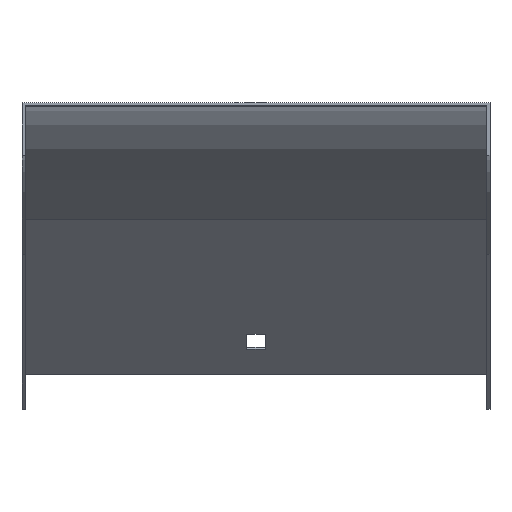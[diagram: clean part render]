
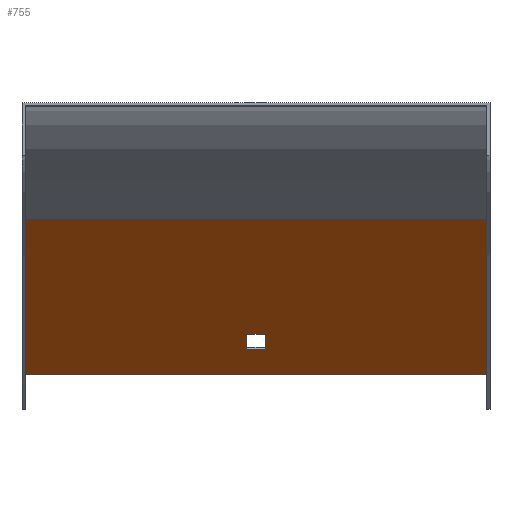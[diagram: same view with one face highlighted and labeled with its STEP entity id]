
A CAD part, top view. The second image highlights one B-rep face of the part: STEP entity #755.
In plain terms, the highlighted planar face has unit normal (0, -0.707, 0.707).
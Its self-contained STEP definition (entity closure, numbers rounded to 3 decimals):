
#1 = VECTOR ( 'NONE', #775, 1000. ) ;
#6 = VECTOR ( 'NONE', #308, 1000. ) ;
#27 = DIRECTION ( 'NONE',  ( -1., 0., 0. ) ) ;
#29 = VECTOR ( 'NONE', #244, 1000. ) ;
#42 = LINE ( 'NONE', #234, #431 ) ;
#64 = DIRECTION ( 'NONE',  ( 0., 0.707, 0.707 ) ) ;
#76 = LINE ( 'NONE', #365, #6 ) ;
#91 = LINE ( 'NONE', #518, #1 ) ;
#96 = EDGE_CURVE ( 'NONE', #166, #438, #91, .T. ) ;
#104 = LINE ( 'NONE', #718, #774 ) ;
#107 = CARTESIAN_POINT ( 'NONE',  ( 3., -37.612, -159.388 ) ) ;
#111 = CARTESIAN_POINT ( 'NONE',  ( -75., -37.612, -159.388 ) ) ;
#115 = CARTESIAN_POINT ( 'NONE',  ( 76., -74.735, -196.511 ) ) ;
#116 = LINE ( 'NONE', #107, #143 ) ;
#129 = CARTESIAN_POINT ( 'NONE',  ( 76., -87.816, -209.593 ) ) ;
#137 = VERTEX_POINT ( 'NONE', #772 ) ;
#143 = VECTOR ( 'NONE', #255, 1000. ) ;
#163 = ORIENTED_EDGE ( 'NONE', *, *, #207, .T. ) ;
#166 = VERTEX_POINT ( 'NONE', #300 ) ;
#177 = ORIENTED_EDGE ( 'NONE', *, *, #180, .T. ) ;
#180 = EDGE_CURVE ( 'NONE', #196, #842, #42, .T. ) ;
#196 = VERTEX_POINT ( 'NONE', #252 ) ;
#207 = EDGE_CURVE ( 'NONE', #842, #572, #844, .T. ) ;
#234 = CARTESIAN_POINT ( 'NONE',  ( -3., -37.612, -159.388 ) ) ;
#244 = DIRECTION ( 'NONE',  ( 1., 0., 0. ) ) ;
#252 = CARTESIAN_POINT ( 'NONE',  ( -3., -79.685, -201.461 ) ) ;
#255 = DIRECTION ( 'NONE',  ( 0., -0.707, -0.707 ) ) ;
#268 = VERTEX_POINT ( 'NONE', #111 ) ;
#275 = EDGE_CURVE ( 'NONE', #572, #137, #116, .T. ) ;
#282 = ORIENTED_EDGE ( 'NONE', *, *, #712, .F. ) ;
#300 = CARTESIAN_POINT ( 'NONE',  ( 75., -87.816, -209.593 ) ) ;
#308 = DIRECTION ( 'NONE',  ( -1., 0., 0. ) ) ;
#312 = ORIENTED_EDGE ( 'NONE', *, *, #782, .T. ) ;
#324 = ORIENTED_EDGE ( 'NONE', *, *, #453, .T. ) ;
#340 = CARTESIAN_POINT ( 'NONE',  ( -75., -37.612, -159.388 ) ) ;
#365 = CARTESIAN_POINT ( 'NONE',  ( 76., -37.612, -159.388 ) ) ;
#388 = CARTESIAN_POINT ( 'NONE',  ( 76., -37.612, -159.388 ) ) ;
#400 = ORIENTED_EDGE ( 'NONE', *, *, #96, .T. ) ;
#408 = LINE ( 'NONE', #129, #567 ) ;
#431 = VECTOR ( 'NONE', #464, 1000. ) ;
#438 = VERTEX_POINT ( 'NONE', #517 ) ;
#444 = VECTOR ( 'NONE', #64, 1000. ) ;
#453 = EDGE_CURVE ( 'NONE', #137, #196, #104, .T. ) ;
#462 = EDGE_LOOP ( 'NONE', ( #282, #520, #400, #312 ) ) ;
#463 = PLANE ( 'NONE',  #789 ) ;
#464 = DIRECTION ( 'NONE',  ( 0., 0.707, 0.707 ) ) ;
#492 = CARTESIAN_POINT ( 'NONE',  ( 3., -74.735, -196.511 ) ) ;
#495 = EDGE_LOOP ( 'NONE', ( #324, #177, #163, #622 ) ) ;
#516 = CARTESIAN_POINT ( 'NONE',  ( -75., -87.816, -209.593 ) ) ;
#517 = CARTESIAN_POINT ( 'NONE',  ( 75., -37.612, -159.388 ) ) ;
#518 = CARTESIAN_POINT ( 'NONE',  ( 75., -37.612, -159.388 ) ) ;
#520 = ORIENTED_EDGE ( 'NONE', *, *, #658, .F. ) ;
#567 = VECTOR ( 'NONE', #675, 1000. ) ;
#572 = VERTEX_POINT ( 'NONE', #492 ) ;
#622 = ORIENTED_EDGE ( 'NONE', *, *, #275, .T. ) ;
#654 = DIRECTION ( 'NONE',  ( 0., -0.707, -0.707 ) ) ;
#658 = EDGE_CURVE ( 'NONE', #166, #793, #408, .T. ) ;
#675 = DIRECTION ( 'NONE',  ( -1., 0., 0. ) ) ;
#680 = CARTESIAN_POINT ( 'NONE',  ( -3., -74.735, -196.511 ) ) ;
#712 = EDGE_CURVE ( 'NONE', #793, #268, #724, .T. ) ;
#718 = CARTESIAN_POINT ( 'NONE',  ( 76., -79.685, -201.461 ) ) ;
#724 = LINE ( 'NONE', #340, #444 ) ;
#741 = FACE_OUTER_BOUND ( 'NONE', #462, .T. ) ;
#755 = ADVANCED_FACE ( 'NONE', ( #741, #786 ), #463, .T. ) ;
#772 = CARTESIAN_POINT ( 'NONE',  ( 3., -79.685, -201.461 ) ) ;
#774 = VECTOR ( 'NONE', #27, 1000. ) ;
#775 = DIRECTION ( 'NONE',  ( 0., 0.707, 0.707 ) ) ;
#782 = EDGE_CURVE ( 'NONE', #438, #268, #76, .T. ) ;
#786 = FACE_BOUND ( 'NONE', #495, .T. ) ;
#789 = AXIS2_PLACEMENT_3D ( 'NONE', #388, #849, #654 ) ;
#793 = VERTEX_POINT ( 'NONE', #516 ) ;
#842 = VERTEX_POINT ( 'NONE', #680 ) ;
#844 = LINE ( 'NONE', #115, #29 ) ;
#849 = DIRECTION ( 'NONE',  ( 0., -0.707, 0.707 ) ) ;
